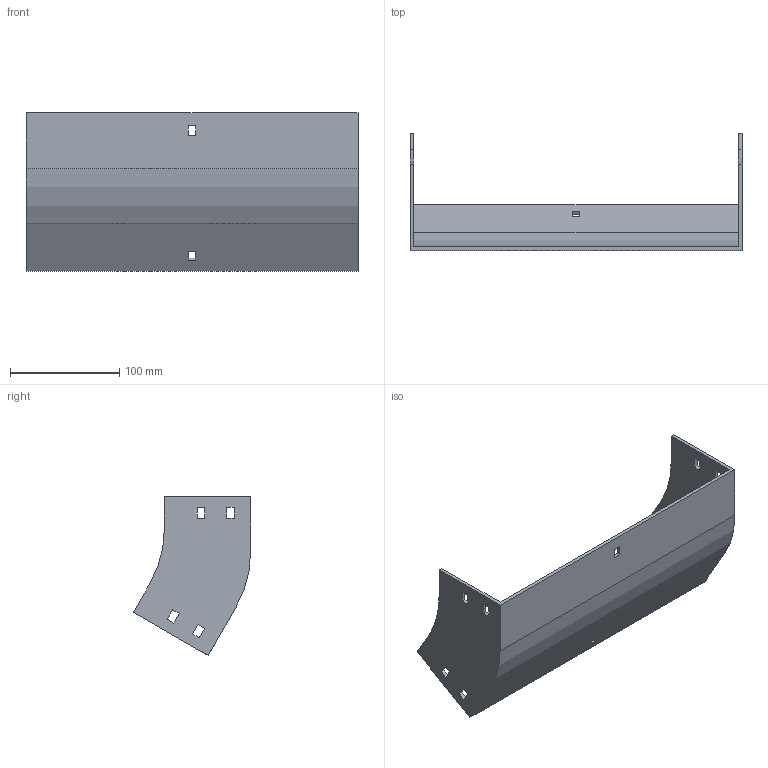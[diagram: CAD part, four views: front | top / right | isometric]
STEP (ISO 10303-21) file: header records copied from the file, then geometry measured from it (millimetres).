
FILE_DESCRIPTION (( 'STEP AP214' ), '1' );
FILE_NAME ('32F1C300.step', '2025-02-21T12:58:39', ( '' ), ( '' ), 'SwSTEP 2.0', 'SolidWorks 2023', '' );
FILE_SCHEMA (( 'AUTOMOTIVE_DESIGN' ));
Length unit declared in the file: millimetre
Products named in the file (1): 32F1C300
Bounding box: 304 x 107.4 x 145.48 mm (x, y, z)
Volume: 232005.4 mm3; surface area: 137721.5 mm2
Topology: 1 solids, 1 shells, 58 faces, 168 edges, 112 vertices
Faces by surface type: plane 54, cylinder 4
Entity records: 1943 total; most frequent: CARTESIAN_POINT 339, ORIENTED_EDGE 336, DIRECTION 294, EDGE_CURVE 168, LINE 160, VECTOR 160, VERTEX_POINT 112, EDGE_LOOP 78
